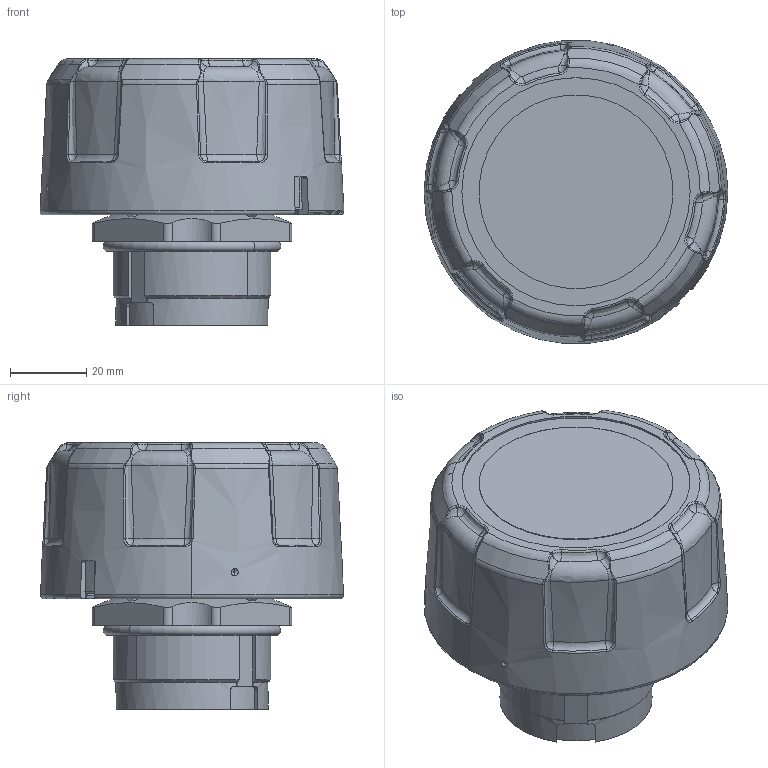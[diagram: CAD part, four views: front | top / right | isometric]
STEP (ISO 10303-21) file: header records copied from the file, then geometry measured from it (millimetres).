
FILE_DESCRIPTION((''),'2;1');
FILE_NAME('30960001_388213','2017-09-26T',('f.kollmann'),(''),'PRO/ENGINEER BY PARAMETRIC TECHNOLOGY CORPORATION, 2015110','PRO/ENGINEER BY PARAMETRIC TECHNOLOGY CORPORATION, 2015110','');
FILE_SCHEMA(('AUTOMOTIVE_DESIGN { 1 0 10303 214 1 1 1 1 }'));
Length unit declared in the file: millimetre
Products named in the file (1): 30960001_388213
Bounding box: 79.89 x 79.62 x 70 mm (x, y, z)
Volume: 226472 mm3; surface area: 25299.1 mm2
Topology: 1 solids, 1 shells, 402 faces, 1034 edges, 640 vertices
Faces by surface type: bspline 178, plane 70, cylinder 62, cone 50, torus 30, sphere 12
Entity records: 22524 total; most frequent: CARTESIAN_POINT 10351, ORIENTED_EDGE 2068, DIRECTION 1101, PRESENTATION_STYLE_ASSIGNMENT 1070, STYLED_ITEM 1035, CURVE_STYLE 1034, EDGE_CURVE 1034, VERTEX_POINT 640
